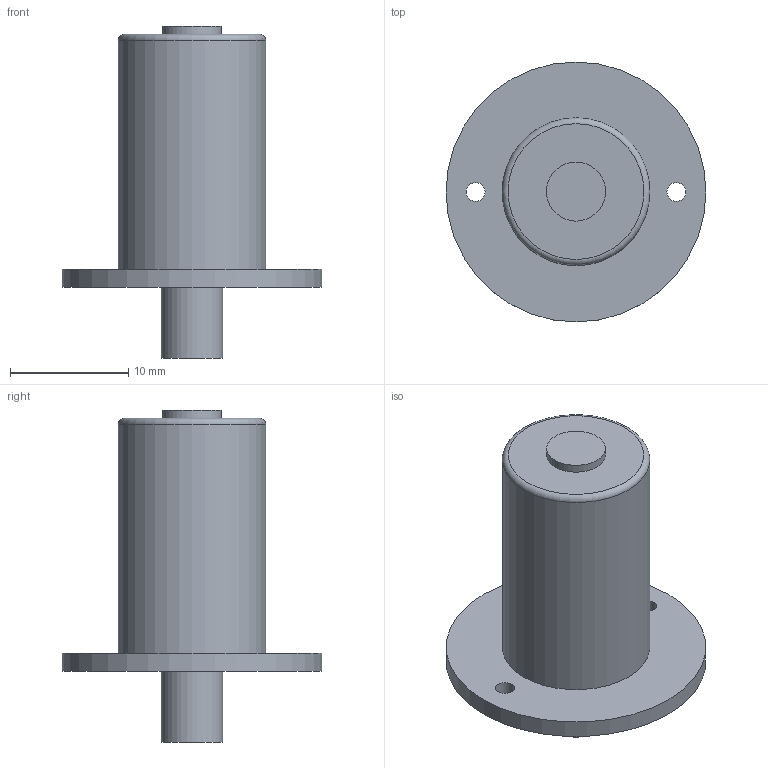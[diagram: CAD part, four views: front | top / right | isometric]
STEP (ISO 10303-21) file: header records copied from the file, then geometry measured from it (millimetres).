
FILE_DESCRIPTION(('Open CASCADE Model'),'2;1');
FILE_NAME('Open CASCADE Shape Model','2026-11-01T16:34:15',('Author'),( 'Open CASCADE'),'Open CASCADE STEP processor 8.0','build123d', 'Unknown');
FILE_SCHEMA(('AUTOMOTIVE_DESIGN { 1 0 10303 214 1 1 1 1 }'));
Length unit declared in the file: millimetre
Products named in the file (1): SOLID
Bounding box: 22 x 22 x 28.1 mm (x, y, z)
Volume: 3145.4 mm3; surface area: 1752.9 mm2
Topology: 1 solids, 1 shells, 12 faces, 20 edges, 13 vertices
Faces by surface type: cylinder 6, plane 5, torus 1
Full cylindrical faces by diameter (mm): 1.6 x2, 5 x1, 5.2 x1, 12.5 x1, 22 x1
Entity records: 566 total; most frequent: DIRECTION 98, CARTESIAN_POINT 88, ORIENTED_EDGE 40, PCURVE 40, DEFINITIONAL_REPRESENTATION 40, LINE 32, VECTOR 32, AXIS2_PLACEMENT_3D 27
